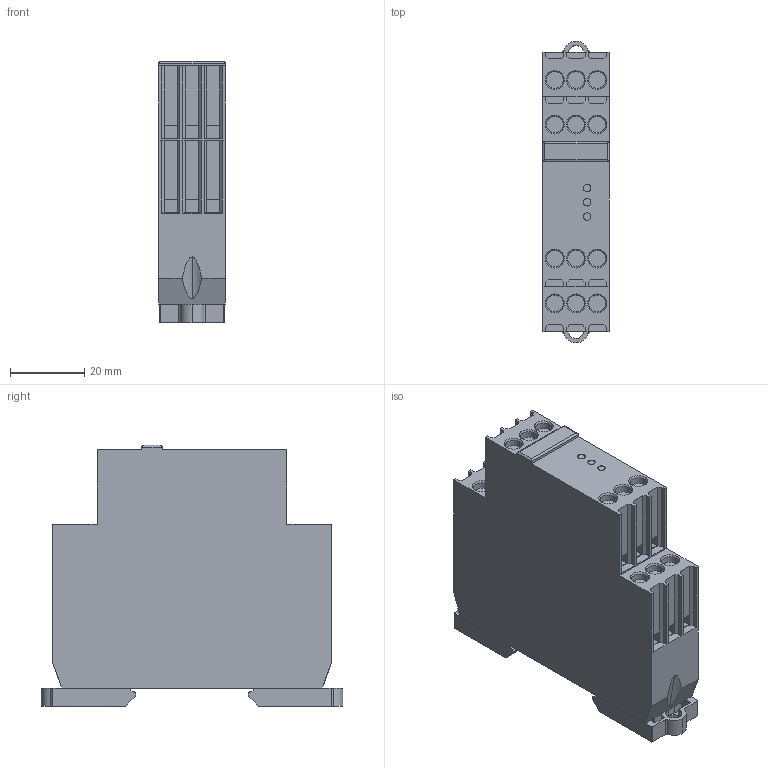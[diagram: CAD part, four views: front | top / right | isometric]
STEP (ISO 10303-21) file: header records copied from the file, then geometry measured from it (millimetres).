
FILE_DESCRIPTION (( 'STEP AP214' ), '1' );
FILE_NAME ('C301.STEP', '2024-04-10T07:29:49', ( '' ), ( '' ), 'SwSTEP 2.0', 'SolidWorks 2022', '' );
FILE_SCHEMA (( 'AUTOMOTIVE_DESIGN' ));
Length unit declared in the file: millimetre
Products named in the file (1): C301
Bounding box: 17.9 x 81 x 70.18 mm (x, y, z)
Volume: 75623.8 mm3; surface area: 18706.2 mm2
Topology: 1 solids, 17 shells, 562 faces, 1457 edges, 926 vertices
Faces by surface type: plane 455, cylinder 81, cone 24, bspline 2
Entity records: 22331 total; most frequent: CARTESIAN_POINT 3026, ORIENTED_EDGE 2914, DIRECTION 2737, EDGE_CURVE 1457, VECTOR 1263, LINE 1263, VERTEX_POINT 926, AXIS2_PLACEMENT_3D 737
